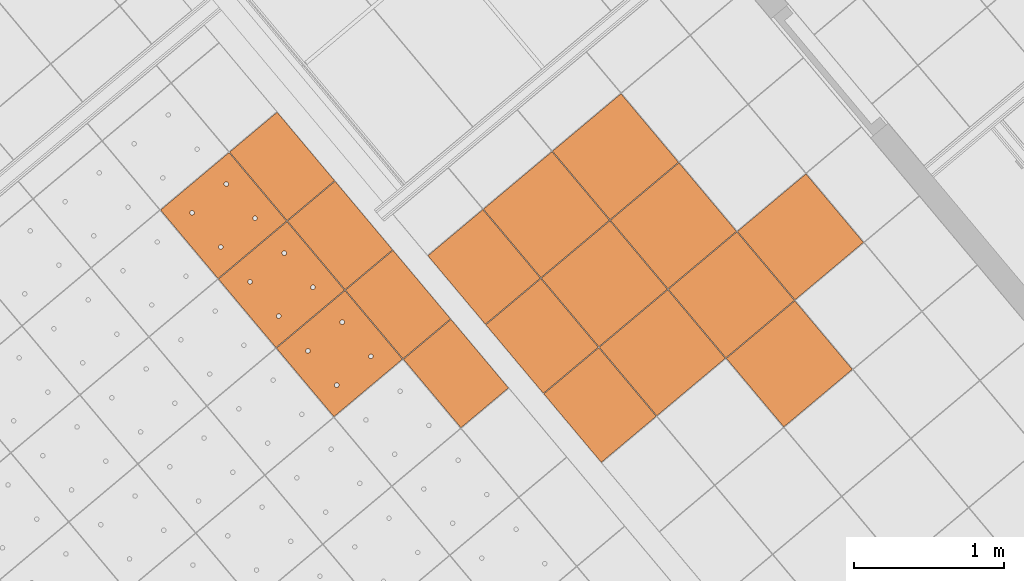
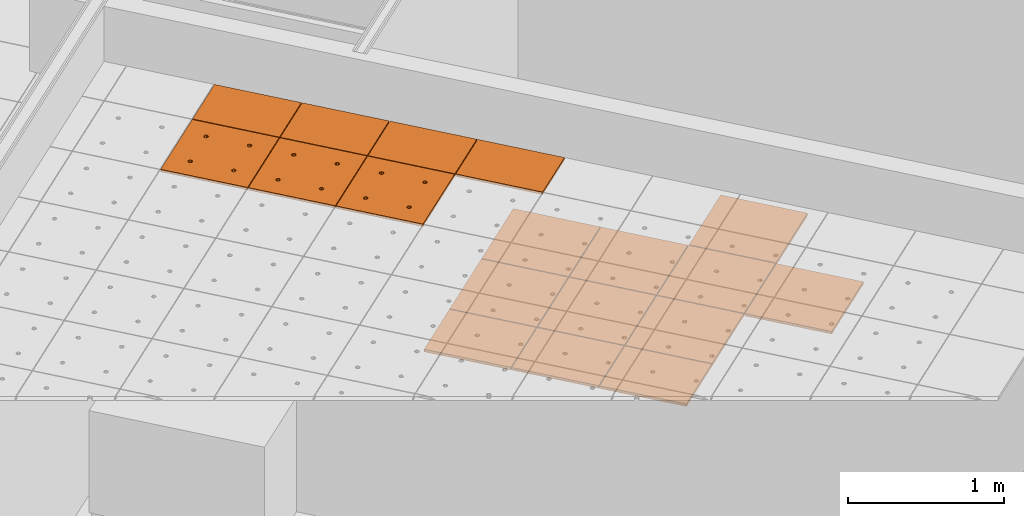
# One storey, part 193 of 338: 18 proxies, 2 elements without a shape of their own.
"""IFC2X3 building model written with IfcOpenShell, lengths in millimetres."""

from ifc_helpers import new_model, entity, si_unit, converted_unit, derived_unit, money_unit, direction, frame, origin_with_axes, place, context, subcontext, project, spatial, faceted_brep, source, transform, mapped, material, type_object, type_shapes, element, aggregate, save


model = new_model("IFC2X3")

# Units and contexts
model_context = context("Model", 3, precision=0.01, world=origin_with_axes(), true_north=direction((0.0, 1.0)))
plan_context = context("Plan", 3, precision=0.01, world=origin_with_axes(), true_north=direction((0.0, 1.0)))
body_context = subcontext(model_context, "Body", "Model", "MODEL_VIEW")
ifc_project = project(units=[si_unit("LENGTHUNIT", "METRE", prefix="MILLI"), si_unit("AREAUNIT", "SQUARE_METRE"), si_unit("VOLUMEUNIT", "CUBIC_METRE"), converted_unit("PLANEANGLEUNIT", "DEGREE", entity("IfcPlaneAngleMeasure", 0.0174532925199), si_unit("PLANEANGLEUNIT", "RADIAN"), dimensions=[0, 0, 0, 0, 0, 0, 0]), money_unit("EUR"), converted_unit("TIMEUNIT", "Year", entity("IfcTimeMeasure", 31556926.0), si_unit("TIMEUNIT", "SECOND"), dimensions=[0, 0, 1, 0, 0, 0, 0]), si_unit("MASSUNIT", "GRAM", prefix="KILO"), si_unit("THERMODYNAMICTEMPERATUREUNIT", "DEGREE_CELSIUS"), si_unit("LUMINOUSINTENSITYUNIT", "LUMEN"), si_unit("ENERGYUNIT", "JOULE", prefix="MEGA"), derived_unit("THERMALCONDUCTANCEUNIT", [(si_unit("POWERUNIT", "WATT"), 1), (si_unit("LENGTHUNIT", "METRE"), -1), (si_unit("THERMODYNAMICTEMPERATUREUNIT", "KELVIN"), -1)]), derived_unit("SPECIFICHEATCAPACITYUNIT", [(si_unit("ENERGYUNIT", "JOULE"), 1), (si_unit("MASSUNIT", "GRAM", prefix="KILO"), -1), (si_unit("THERMODYNAMICTEMPERATUREUNIT", "KELVIN"), -1)]), derived_unit("MASSDENSITYUNIT", [(si_unit("MASSUNIT", "GRAM", prefix="KILO"), 1), (si_unit("VOLUMEUNIT", "CUBIC_METRE"), -1)])], contexts=[model_context, plan_context])

# Site, building, storey
site_placement = place(None, origin_with_axes())
site = spatial("IfcSite", under=ifc_project, at=site_placement, Name="Fortuinstraat Woensdrecht", CompositionType="ELEMENT")
building_placement = place(site_placement, origin_with_axes())
building = spatial("IfcBuilding", under=site, at=building_placement, Name="IKC Fortuna", CompositionType="ELEMENT")
storey_placement = place(building_placement, origin_with_axes())
storey = spatial("IfcBuildingStorey", under=building, at=storey_placement, Name="00 begane grond", CompositionType="ELEMENT", Elevation=0.0)

# Covering, proxies
covering_type = type_object("IfcCoveringType", Name="Curtain Wall Type", PredefinedType="CEILING")
covering_1_placement = place(storey_placement, frame((23826.4460301, -4357.43121765, 2810.0), z_axis=(0.0, 0.0, 1.0), x_axis=(1.0, 0.0, 0.0)))
covering_1 = element("IfcCovering", 1, at=covering_1_placement, inside=storey, type_object=covering_type, Name="45_Plafondafwerking_P02", PredefinedType="CEILING")
ifc_material = material(Name="Gipsplaat")
building_element_proxy_type_1 = type_object("IfcBuildingElementProxyType", Name="Distinct Panel 600 x 600 x 20", PredefinedType="NOTDEFINED")
shared_shape_1 = source(origin_with_axes(), body_context, "Body", "Brep", [
    faceted_brep([(2.49999999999, 2.5, -10.0), (597.5, 2.49999999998, -10.0), (597.5, 2.49999999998, 10.0), (2.49999999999, 2.5, 10.0), (2.50000000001, 597.5, -10.0), (597.5, 597.5, -10.0), (597.5, 597.5, 10.0), (2.50000000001, 597.5, 10.0)], [[[0, 1, 2, 3]], [[0, 4, 5, 1]], [[1, 5, 6, 2]], [[3, 2, 6, 7]], [[4, 0, 3, 7]], [[5, 4, 7, 6]]]),
])
proxy_1_placement = place(covering_1_placement, frame((-356.752072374, 1267.1383942, 0.0), z_axis=(0.0, 0.0, 1.0), x_axis=(1.0, 0.0, 0.0)))
proxy_1 = element("IfcBuildingElementProxy", 2, at=proxy_1_placement, type_object=building_element_proxy_type_1, material=ifc_material, Name="__Panel-D", context=body_context, shape_type="MappedRepresentation", body=[
    mapped(shared_shape_1, transform((36.9769427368, 422.649625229, 0.0), x_axis=(-0.766044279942, -0.642787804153, 0.0), y_axis=(0.642787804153, -0.766044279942, 0.0), z_axis=(0.0, 0.0, 1.0))),
])
proxy_2_placement = place(covering_1_placement, frame((488.547178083, 1193.18450873, 0.0), z_axis=(0.0, 0.0, 1.0), x_axis=(1.0, 0.0, 0.0)))
proxy_2 = element("IfcBuildingElementProxy", 3, at=proxy_2_placement, type_object=building_element_proxy_type_1, material=ifc_material, Name="__Panel-D", context=body_context, shape_type="MappedRepresentation", body=[
    mapped(shared_shape_1, transform((36.9769427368, 422.649625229, 0.0), x_axis=(-0.766044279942, -0.642787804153, 0.0), y_axis=(0.642787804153, -0.766044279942, 0.0), z_axis=(0.0, 0.0, 1.0))),
])
proxy_3_placement = place(covering_1_placement, frame((28.9206101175, 807.511826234, 0.0), z_axis=(0.0, 0.0, 1.0), x_axis=(1.0, 0.0, 0.0)))
proxy_3 = element("IfcBuildingElementProxy", 4, at=proxy_3_placement, type_object=building_element_proxy_type_1, material=ifc_material, Name="__Panel-D", context=body_context, shape_type="MappedRepresentation", body=[
    mapped(shared_shape_1, transform((36.9769427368, 422.649625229, 0.0), x_axis=(-0.766044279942, -0.642787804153, 0.0), y_axis=(0.642787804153, -0.766044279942, 0.0), z_axis=(0.0, 0.0, 1.0))),
])
proxy_4_placement = place(covering_1_placement, frame((874.219860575, 733.55794076, 0.0), z_axis=(0.0, 0.0, 1.0), x_axis=(1.0, 0.0, 0.0)))
proxy_4 = element("IfcBuildingElementProxy", 5, at=proxy_4_placement, type_object=building_element_proxy_type_1, material=ifc_material, Name="__Panel-D", context=body_context, shape_type="MappedRepresentation", body=[
    mapped(shared_shape_1, transform((36.9769427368, 422.649625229, 0.0), x_axis=(-0.766044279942, -0.642787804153, 0.0), y_axis=(0.642787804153, -0.766044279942, 0.0), z_axis=(0.0, 0.0, 1.0))),
])
proxy_5_placement = place(covering_1_placement, frame((102.874495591, 1652.81107669, 0.0), z_axis=(0.0, 0.0, 1.0), x_axis=(1.0, 0.0, 0.0)))
proxy_5 = element("IfcBuildingElementProxy", 6, at=proxy_5_placement, type_object=building_element_proxy_type_1, material=ifc_material, Name="__Panel-D", context=body_context, shape_type="MappedRepresentation", body=[
    mapped(shared_shape_1, transform((36.9769427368, 422.649625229, 0.0), x_axis=(-0.766044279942, -0.642787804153, 0.0), y_axis=(0.642787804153, -0.766044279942, 0.0), z_axis=(0.0, 0.0, 1.0))),
])
proxy_6_placement = place(covering_1_placement, frame((1259.89254307, 273.931372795, 0.0), z_axis=(0.0, 0.0, 1.0), x_axis=(1.0, 0.0, 0.0)))
proxy_6 = element("IfcBuildingElementProxy", 7, at=proxy_6_placement, type_object=building_element_proxy_type_1, material=ifc_material, Name="__Panel-D", context=body_context, shape_type="MappedRepresentation", body=[
    mapped(shared_shape_1, transform((36.9769427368, 422.649625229, 0.0), x_axis=(-0.766044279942, -0.642787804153, 0.0), y_axis=(0.642787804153, -0.766044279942, 0.0), z_axis=(0.0, 0.0, 1.0))),
])
shared_shape_2 = source(origin_with_axes(), body_context, "Body", "Brep", [
    faceted_brep([(2.5000069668, 2.4999963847, -10.0), (597.499995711, 2.50000275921, -10.0), (597.499995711, 2.50000275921, 10.0), (2.5000069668, 2.4999963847, 10.0), (2.50000214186, 597.499967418, -10.0), (597.499990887, 597.499973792, -10.0), (597.499990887, 597.499973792, 10.0), (2.50000214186, 597.499967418, 10.0)], [[[0, 1, 2, 3]], [[0, 4, 5, 1]], [[1, 5, 6, 2]], [[3, 2, 6, 7]], [[4, 0, 3, 7]], [[5, 4, 7, 6]]]),
])
type_shapes(building_element_proxy_type_1, [shared_shape_1, shared_shape_2])
proxy_7_placement = place(covering_1_placement, frame((1333.84642854, 1119.23062325, 0.0), z_axis=(0.0, 0.0, 1.0), x_axis=(1.0, 0.0, 0.0)))
proxy_7 = element("IfcBuildingElementProxy", 8, at=proxy_7_placement, type_object=building_element_proxy_type_1, material=ifc_material, Name="__Panel-D", context=body_context, shape_type="MappedRepresentation", body=[
    mapped(shared_shape_2, transform((36.9769427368, 422.649625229, 0.0), x_axis=(-0.766044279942, -0.642787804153, 0.0), y_axis=(0.642787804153, -0.766044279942, 0.0), z_axis=(0.0, 0.0, 1.0))),
])
proxy_8_placement = place(covering_1_placement, frame((414.593292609, 347.885258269, 0.0), z_axis=(0.0, 0.0, 1.0), x_axis=(1.0, 0.0, 0.0)))
proxy_8 = element("IfcBuildingElementProxy", 9, at=proxy_8_placement, type_object=building_element_proxy_type_1, material=ifc_material, Name="__Panel-D", context=body_context, shape_type="MappedRepresentation", body=[
    mapped(shared_shape_2, transform((36.9769427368, 422.649625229, 0.0), x_axis=(-0.766044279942, -0.642787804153, 0.0), y_axis=(0.642787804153, -0.766044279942, 0.0), z_axis=(0.0, 0.0, 1.0))),
])

covering_2_placement = place(storey_placement, frame((19785.7448517, -11392.5753808, 4660.0), z_axis=(0.0, 0.0, 1.0), x_axis=(1.0, 0.0, 0.0)))
covering_2 = element("IfcCovering", 10, at=covering_2_placement, inside=storey, type_object=covering_type, Name="45_Plafondafwerking_P01", PredefinedType="CEILING")
building_element_proxy_type_2 = type_object("IfcBuildingElementProxyType", Name="Main Panel 600 x 600 x 20", PredefinedType="NOTDEFINED")
shared_shape_3 = source(origin_with_axes(), body_context, "Body", "Brep", [
    faceted_brep([(2.49999999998, 2.49999999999, -10.0), (300.0, 2.49999999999, -10.0), (300.0, 2.49999999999, 10.0), (2.49999999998, 2.49999999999, 10.0), (2.49999999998, 300.0, -10.0), (2.49999999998, 597.5, -10.0), (300.0, 597.5, -10.0), (597.5, 597.5, -10.0), (597.5, 300.0, -10.0), (597.5, 2.49999999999, -10.0), (166.25, 450.06232995, -10.0), (165.79423259, 452.64711538, -10.0), (164.896546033, 455.11348892, -10.0), (163.58421608, 457.38651108, -10.0), (161.897117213, 459.39711721, -10.0), (159.886511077, 461.08421608, -10.0), (157.613488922, 462.39654603, -10.0), (155.147115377, 463.29423259, -10.0), (152.562329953, 463.75, -10.0), (149.937670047, 463.75, -10.0), (147.352884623, 463.29423259, -10.0), (144.886511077, 462.39654603, -10.0), (142.613488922, 461.08421608, -10.0), (140.602882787, 459.39711721, -10.0), (138.91578392, 457.38651108, -10.0), (137.603453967, 455.11348892, -10.0), (136.705767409, 452.64711538, -10.0), (136.25, 450.06232995, -10.0), (136.25, 448.75, -10.0), (136.25, 447.43767005, -10.0), (136.705767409, 444.85288462, -10.0), (137.603453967, 442.38651108, -10.0), (138.91578392, 440.11348892, -10.0), (140.602882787, 438.10288279, -10.0), (142.613488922, 436.41578392, -10.0), (144.886511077, 435.10345397, -10.0), (147.352884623, 434.20576741, -10.0), (149.937670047, 433.75, -10.0), (152.562329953, 433.75, -10.0), (155.147115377, 434.20576741, -10.0), (157.613488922, 435.10345397, -10.0), (159.886511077, 436.41578392, -10.0), (161.897117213, 438.10288279, -10.0), (163.58421608, 440.11348892, -10.0), (164.896546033, 442.38651108, -10.0), (165.79423259, 444.85288462, -10.0), (166.25, 447.43767005, -10.0), (463.75, 450.06232995, -10.0), (463.29423259, 452.64711538, -10.0), (462.396546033, 455.11348892, -10.0), (461.08421608, 457.38651108, -10.0), (459.397117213, 459.39711721, -10.0), (457.386511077, 461.08421608, -10.0), (455.113488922, 462.39654603, -10.0), (452.647115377, 463.29423259, -10.0), (450.062329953, 463.75, -10.0), (447.437670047, 463.75, -10.0), (444.852884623, 463.29423259, -10.0), (442.386511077, 462.39654603, -10.0), (440.113488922, 461.08421608, -10.0), (438.102882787, 459.39711721, -10.0), (436.41578392, 457.38651108, -10.0), (435.103453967, 455.11348892, -10.0), (434.205767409, 452.64711538, -10.0), (433.75, 450.06232995, -10.0), (433.75, 448.75, -10.0), (433.75, 447.43767005, -10.0), (434.205767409, 444.85288462, -10.0), (435.103453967, 442.38651108, -10.0), (436.41578392, 440.11348892, -10.0), (438.102882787, 438.10288279, -10.0), (440.113488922, 436.41578392, -10.0), (442.386511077, 435.10345397, -10.0), (444.852884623, 434.20576741, -10.0), (447.437670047, 433.75, -10.0), (450.062329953, 433.75, -10.0), (452.647115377, 434.20576741, -10.0), (455.113488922, 435.10345397, -10.0), (457.386511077, 436.41578392, -10.0), (459.397117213, 438.10288279, -10.0), (461.08421608, 440.11348892, -10.0), (462.396546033, 442.38651108, -10.0), (463.29423259, 444.85288462, -10.0), (463.75, 447.43767005, -10.0), (463.75, 152.56232995, -10.0), (463.29423259, 155.14711538, -10.0), (462.396546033, 157.61348892, -10.0), (461.08421608, 159.88651108, -10.0), (459.397117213, 161.89711721, -10.0), (457.386511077, 163.58421608, -10.0), (455.113488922, 164.89654603, -10.0), (452.647115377, 165.79423259, -10.0), (450.062329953, 166.25, -10.0), (447.437670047, 166.25, -10.0), (444.852884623, 165.79423259, -10.0), (442.386511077, 164.89654603, -10.0), (440.113488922, 163.58421608, -10.0), (438.102882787, 161.89711721, -10.0), (436.41578392, 159.88651108, -10.0), (435.103453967, 157.61348892, -10.0), (434.205767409, 155.14711538, -10.0), (433.75, 152.56232995, -10.0), (433.75, 151.25, -10.0), (433.75, 149.93767005, -10.0), (434.205767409, 147.35288462, -10.0), (435.103453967, 144.88651108, -10.0), (436.41578392, 142.61348892, -10.0), (438.102882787, 140.60288279, -10.0), (440.113488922, 138.91578392, -10.0), (442.386511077, 137.60345397, -10.0), (444.852884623, 136.70576741, -10.0), (447.437670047, 136.25, -10.0), (450.062329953, 136.25, -10.0), (452.647115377, 136.70576741, -10.0), (455.113488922, 137.60345397, -10.0), (457.386511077, 138.91578392, -10.0), (459.397117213, 140.60288279, -10.0), (461.08421608, 142.61348892, -10.0), (462.396546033, 144.88651108, -10.0), (463.29423259, 147.35288462, -10.0), (463.75, 149.93767005, -10.0), (166.25, 152.56232995, -10.0), (165.79423259, 155.14711538, -10.0), (164.896546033, 157.61348892, -10.0), (163.58421608, 159.88651108, -10.0), (161.897117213, 161.89711721, -10.0), (159.886511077, 163.58421608, -10.0), (157.613488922, 164.89654603, -10.0), (155.147115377, 165.79423259, -10.0), (152.562329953, 166.25, -10.0), (149.937670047, 166.25, -10.0), (147.352884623, 165.79423259, -10.0), (144.886511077, 164.89654603, -10.0), (142.613488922, 163.58421608, -10.0), (140.602882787, 161.89711721, -10.0), (138.91578392, 159.88651108, -10.0), (137.603453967, 157.61348892, -10.0), (136.705767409, 155.14711538, -10.0), (136.25, 152.56232995, -10.0), (136.25, 151.25, -10.0), (136.25, 149.93767005, -10.0), (136.705767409, 147.35288462, -10.0), (137.603453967, 144.88651108, -10.0), (138.91578392, 142.61348892, -10.0), (140.602882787, 140.60288279, -10.0), (142.613488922, 138.91578392, -10.0), (144.886511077, 137.60345397, -10.0), (147.352884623, 136.70576741, -10.0), (149.937670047, 136.25, -10.0), (152.562329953, 136.25, -10.0), (155.147115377, 136.70576741, -10.0), (157.613488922, 137.60345397, -10.0), (159.886511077, 138.91578392, -10.0), (161.897117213, 140.60288279, -10.0), (163.58421608, 142.61348892, -10.0), (164.896546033, 144.88651108, -10.0), (165.79423259, 147.35288462, -10.0), (166.25, 149.93767005, -10.0), (597.5, 2.49999999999, 10.0), (597.5, 300.0, 10.0), (597.5, 597.5, 10.0), (300.0, 597.5, 10.0), (2.49999999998, 597.5, 10.0), (2.49999999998, 300.0, 10.0), (166.25, 450.06232995, 10.0), (166.25, 447.43767005, 10.0), (165.79423259, 444.85288462, 10.0), (164.896546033, 442.38651108, 10.0), (163.58421608, 440.11348892, 10.0), (161.897117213, 438.10288279, 10.0), (159.886511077, 436.41578392, 10.0), (157.613488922, 435.10345397, 10.0), (155.147115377, 434.20576741, 10.0), (152.562329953, 433.75, 10.0), (149.937670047, 433.75, 10.0), (147.352884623, 434.20576741, 10.0), (144.886511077, 435.10345397, 10.0), (142.613488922, 436.41578392, 10.0), (140.602882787, 438.10288279, 10.0), (138.91578392, 440.11348892, 10.0), (137.603453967, 442.38651108, 10.0), (136.705767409, 444.85288462, 10.0), (136.25, 447.43767005, 10.0), (136.25, 448.75, 10.0), (136.25, 450.06232995, 10.0), (136.705767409, 452.64711538, 10.0), (137.603453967, 455.11348892, 10.0), (138.91578392, 457.38651108, 10.0), (140.602882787, 459.39711721, 10.0), (142.613488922, 461.08421608, 10.0), (144.886511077, 462.39654603, 10.0), (147.352884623, 463.29423259, 10.0), (149.937670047, 463.75, 10.0), (152.562329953, 463.75, 10.0), (155.147115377, 463.29423259, 10.0), (157.613488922, 462.39654603, 10.0), (159.886511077, 461.08421608, 10.0), (161.897117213, 459.39711721, 10.0), (163.58421608, 457.38651108, 10.0), (164.896546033, 455.11348892, 10.0), (165.79423259, 452.64711538, 10.0), (463.75, 450.06232995, 10.0), (463.75, 447.43767005, 10.0), (463.29423259, 444.85288462, 10.0), (462.396546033, 442.38651108, 10.0), (461.08421608, 440.11348892, 10.0), (459.397117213, 438.10288279, 10.0), (457.386511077, 436.41578392, 10.0), (455.113488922, 435.10345397, 10.0), (452.647115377, 434.20576741, 10.0), (450.062329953, 433.75, 10.0), (447.437670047, 433.75, 10.0), (444.852884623, 434.20576741, 10.0), (442.386511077, 435.10345397, 10.0), (440.113488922, 436.41578392, 10.0), (438.102882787, 438.10288279, 10.0), (436.41578392, 440.11348892, 10.0), (435.103453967, 442.38651108, 10.0), (434.205767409, 444.85288462, 10.0), (433.75, 447.43767005, 10.0), (433.75, 448.75, 10.0), (433.75, 450.06232995, 10.0), (434.205767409, 452.64711538, 10.0), (435.103453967, 455.11348892, 10.0), (436.41578392, 457.38651108, 10.0), (438.102882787, 459.39711721, 10.0), (440.113488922, 461.08421608, 10.0), (442.386511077, 462.39654603, 10.0), (444.852884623, 463.29423259, 10.0), (447.437670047, 463.75, 10.0), (450.062329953, 463.75, 10.0), (452.647115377, 463.29423259, 10.0), (455.113488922, 462.39654603, 10.0), (457.386511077, 461.08421608, 10.0), (459.397117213, 459.39711721, 10.0), (461.08421608, 457.38651108, 10.0), (462.396546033, 455.11348892, 10.0), (463.29423259, 452.64711538, 10.0), (463.75, 152.56232995, 10.0), (463.75, 149.93767005, 10.0), (463.29423259, 147.35288462, 10.0), (462.396546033, 144.88651108, 10.0), (461.08421608, 142.61348892, 10.0), (459.397117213, 140.60288279, 10.0), (457.386511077, 138.91578392, 10.0), (455.113488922, 137.60345397, 10.0), (452.647115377, 136.70576741, 10.0), (450.062329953, 136.25, 10.0), (447.437670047, 136.25, 10.0), (444.852884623, 136.70576741, 10.0), (442.386511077, 137.60345397, 10.0), (440.113488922, 138.91578392, 10.0), (438.102882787, 140.60288279, 10.0), (436.41578392, 142.61348892, 10.0), (435.103453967, 144.88651108, 10.0), (434.205767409, 147.35288462, 10.0), (433.75, 149.93767005, 10.0), (433.75, 151.25, 10.0), (433.75, 152.56232995, 10.0), (434.205767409, 155.14711538, 10.0), (435.103453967, 157.61348892, 10.0), (436.41578392, 159.88651108, 10.0), (438.102882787, 161.89711721, 10.0), (440.113488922, 163.58421608, 10.0), (442.386511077, 164.89654603, 10.0), (444.852884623, 165.79423259, 10.0), (447.437670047, 166.25, 10.0), (450.062329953, 166.25, 10.0), (452.647115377, 165.79423259, 10.0), (455.113488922, 164.89654603, 10.0), (457.386511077, 163.58421608, 10.0), (459.397117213, 161.89711721, 10.0), (461.08421608, 159.88651108, 10.0), (462.396546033, 157.61348892, 10.0), (463.29423259, 155.14711538, 10.0), (166.25, 152.56232995, 10.0), (166.25, 149.93767005, 10.0), (165.79423259, 147.35288462, 10.0), (164.896546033, 144.88651108, 10.0), (163.58421608, 142.61348892, 10.0), (161.897117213, 140.60288279, 10.0), (159.886511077, 138.91578392, 10.0), (157.613488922, 137.60345397, 10.0), (155.147115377, 136.70576741, 10.0), (152.562329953, 136.25, 10.0), (149.937670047, 136.25, 10.0), (147.352884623, 136.70576741, 10.0), (144.886511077, 137.60345397, 10.0), (142.613488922, 138.91578392, 10.0), (140.602882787, 140.60288279, 10.0), (138.91578392, 142.61348892, 10.0), (137.603453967, 144.88651108, 10.0), (136.705767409, 147.35288462, 10.0), (136.25, 149.93767005, 10.0), (136.25, 151.25, 10.0), (136.25, 152.56232995, 10.0), (136.705767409, 155.14711538, 10.0), (137.603453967, 157.61348892, 10.0), (138.91578392, 159.88651108, 10.0), (140.602882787, 161.89711721, 10.0), (142.613488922, 163.58421608, 10.0), (144.886511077, 164.89654603, 10.0), (147.352884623, 165.79423259, 10.0), (149.937670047, 166.25, 10.0), (152.562329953, 166.25, 10.0), (155.147115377, 165.79423259, 10.0), (157.613488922, 164.89654603, 10.0), (159.886511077, 163.58421608, 10.0), (161.897117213, 161.89711721, 10.0), (163.58421608, 159.88651108, 10.0), (164.896546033, 157.61348892, 10.0), (165.79423259, 155.14711538, 10.0)], [[[0, 1, 2, 3]], [[0, 4, 5, 6, 7, 8, 9, 1], [10, 11, 12, 13, 14, 15, 16, 17, 18, 19, 20, 21, 22, 23, 24, 25, 26, 27, 28, 29, 30, 31, 32, 33, 34, 35, 36, 37, 38, 39, 40, 41, 42, 43, 44, 45, 46], [47, 48, 49, 50, 51, 52, 53, 54, 55, 56, 57, 58, 59, 60, 61, 62, 63, 64, 65, 66, 67, 68, 69, 70, 71, 72, 73, 74, 75, 76, 77, 78, 79, 80, 81, 82, 83], [84, 85, 86, 87, 88, 89, 90, 91, 92, 93, 94, 95, 96, 97, 98, 99, 100, 101, 102, 103, 104, 105, 106, 107, 108, 109, 110, 111, 112, 113, 114, 115, 116, 117, 118, 119, 120], [121, 122, 123, 124, 125, 126, 127, 128, 129, 130, 131, 132, 133, 134, 135, 136, 137, 138, 139, 140, 141, 142, 143, 144, 145, 146, 147, 148, 149, 150, 151, 152, 153, 154, 155, 156, 157]], [[1, 9, 158, 2]], [[3, 2, 158, 159, 160, 161, 162, 163], [164, 165, 166, 167, 168, 169, 170, 171, 172, 173, 174, 175, 176, 177, 178, 179, 180, 181, 182, 183, 184, 185, 186, 187, 188, 189, 190, 191, 192, 193, 194, 195, 196, 197, 198, 199, 200], [201, 202, 203, 204, 205, 206, 207, 208, 209, 210, 211, 212, 213, 214, 215, 216, 217, 218, 219, 220, 221, 222, 223, 224, 225, 226, 227, 228, 229, 230, 231, 232, 233, 234, 235, 236, 237], [238, 239, 240, 241, 242, 243, 244, 245, 246, 247, 248, 249, 250, 251, 252, 253, 254, 255, 256, 257, 258, 259, 260, 261, 262, 263, 264, 265, 266, 267, 268, 269, 270, 271, 272, 273, 274], [275, 276, 277, 278, 279, 280, 281, 282, 283, 284, 285, 286, 287, 288, 289, 290, 291, 292, 293, 294, 295, 296, 297, 298, 299, 300, 301, 302, 303, 304, 305, 306, 307, 308, 309, 310, 311]], [[4, 0, 3, 163]], [[5, 4, 163, 162]], [[6, 5, 162, 161]], [[7, 6, 161, 160]], [[8, 7, 160, 159]], [[9, 8, 159, 158]], [[11, 10, 164, 200]], [[12, 11, 200, 199]], [[13, 12, 199, 198]], [[14, 13, 198, 197]], [[15, 14, 197, 196]], [[16, 15, 196, 195]], [[17, 16, 195, 194]], [[18, 17, 194, 193]], [[19, 18, 193, 192]], [[20, 19, 192, 191]], [[21, 20, 191, 190]], [[22, 21, 190, 189]], [[23, 22, 189, 188]], [[24, 23, 188, 187]], [[25, 24, 187, 186]], [[26, 25, 186, 185]], [[27, 26, 185, 184]], [[28, 27, 184, 183]], [[29, 28, 183, 182]], [[30, 29, 182, 181]], [[31, 30, 181, 180]], [[32, 31, 180, 179]], [[33, 32, 179, 178]], [[34, 33, 178, 177]], [[35, 34, 177, 176]], [[36, 35, 176, 175]], [[37, 36, 175, 174]], [[38, 37, 174, 173]], [[39, 38, 173, 172]], [[40, 39, 172, 171]], [[41, 40, 171, 170]], [[42, 41, 170, 169]], [[43, 42, 169, 168]], [[44, 43, 168, 167]], [[45, 44, 167, 166]], [[46, 45, 166, 165]], [[10, 46, 165, 164]], [[48, 47, 201, 237]], [[49, 48, 237, 236]], [[50, 49, 236, 235]], [[51, 50, 235, 234]], [[52, 51, 234, 233]], [[53, 52, 233, 232]], [[54, 53, 232, 231]], [[55, 54, 231, 230]], [[56, 55, 230, 229]], [[57, 56, 229, 228]], [[58, 57, 228, 227]], [[59, 58, 227, 226]], [[60, 59, 226, 225]], [[61, 60, 225, 224]], [[62, 61, 224, 223]], [[63, 62, 223, 222]], [[64, 63, 222, 221]], [[65, 64, 221, 220]], [[66, 65, 220, 219]], [[67, 66, 219, 218]], [[68, 67, 218, 217]], [[69, 68, 217, 216]], [[70, 69, 216, 215]], [[71, 70, 215, 214]], [[72, 71, 214, 213]], [[73, 72, 213, 212]], [[74, 73, 212, 211]], [[75, 74, 211, 210]], [[76, 75, 210, 209]], [[77, 76, 209, 208]], [[78, 77, 208, 207]], [[79, 78, 207, 206]], [[80, 79, 206, 205]], [[81, 80, 205, 204]], [[82, 81, 204, 203]], [[83, 82, 203, 202]], [[47, 83, 202, 201]], [[85, 84, 238, 274]], [[86, 85, 274, 273]], [[87, 86, 273, 272]], [[88, 87, 272, 271]], [[89, 88, 271, 270]], [[90, 89, 270, 269]], [[91, 90, 269, 268]], [[92, 91, 268, 267]], [[93, 92, 267, 266]], [[94, 93, 266, 265]], [[95, 94, 265, 264]], [[96, 95, 264, 263]], [[97, 96, 263, 262]], [[98, 97, 262, 261]], [[99, 98, 261, 260]], [[100, 99, 260, 259]], [[101, 100, 259, 258]], [[102, 101, 258, 257]], [[103, 102, 257, 256]], [[104, 103, 256, 255]], [[105, 104, 255, 254]], [[106, 105, 254, 253]], [[107, 106, 253, 252]], [[108, 107, 252, 251]], [[109, 108, 251, 250]], [[110, 109, 250, 249]], [[111, 110, 249, 248]], [[112, 111, 248, 247]], [[113, 112, 247, 246]], [[114, 113, 246, 245]], [[115, 114, 245, 244]], [[116, 115, 244, 243]], [[117, 116, 243, 242]], [[118, 117, 242, 241]], [[119, 118, 241, 240]], [[120, 119, 240, 239]], [[84, 120, 239, 238]], [[122, 121, 275, 311]], [[123, 122, 311, 310]], [[124, 123, 310, 309]], [[125, 124, 309, 308]], [[126, 125, 308, 307]], [[127, 126, 307, 306]], [[128, 127, 306, 305]], [[129, 128, 305, 304]], [[130, 129, 304, 303]], [[131, 130, 303, 302]], [[132, 131, 302, 301]], [[133, 132, 301, 300]], [[134, 133, 300, 299]], [[135, 134, 299, 298]], [[136, 135, 298, 297]], [[137, 136, 297, 296]], [[138, 137, 296, 295]], [[139, 138, 295, 294]], [[140, 139, 294, 293]], [[141, 140, 293, 292]], [[142, 141, 292, 291]], [[143, 142, 291, 290]], [[144, 143, 290, 289]], [[145, 144, 289, 288]], [[146, 145, 288, 287]], [[147, 146, 287, 286]], [[148, 147, 286, 285]], [[149, 148, 285, 284]], [[150, 149, 284, 283]], [[151, 150, 283, 282]], [[152, 151, 282, 281]], [[153, 152, 281, 280]], [[154, 153, 280, 279]], [[155, 154, 279, 278]], [[156, 155, 278, 277]], [[157, 156, 277, 276]], [[121, 157, 276, 275]]]),
])
type_shapes(building_element_proxy_type_2, [shared_shape_3])
proxy_9_placement = place(covering_2_placement, frame((1535.02230309, 8296.44613798, 0.0), z_axis=(0.0, 0.0, 1.0), x_axis=(1.0, 0.0, 0.0)))
proxy_9 = element("IfcBuildingElementProxy", 11, at=proxy_9_placement, type_object=building_element_proxy_type_2, material=ifc_material, Name="__600x640 Rockfon Krios", context=body_context, shape_type="MappedRepresentation", body=[
    mapped(shared_shape_3, transform((36.9769427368, 422.649625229, 0.0), x_axis=(-0.766044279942, -0.642787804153, 0.0), y_axis=(0.642787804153, -0.766044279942, 0.0), z_axis=(0.0, 0.0, 1.0))),
])
proxy_10_placement = place(covering_2_placement, frame((1920.69498558, 7836.81957001, 0.0), z_axis=(0.0, 0.0, 1.0), x_axis=(1.0, 0.0, 0.0)))
proxy_10 = element("IfcBuildingElementProxy", 12, at=proxy_10_placement, type_object=building_element_proxy_type_2, material=ifc_material, Name="__600x660 Rockfon Krios", context=body_context, shape_type="MappedRepresentation", body=[
    mapped(shared_shape_3, transform((36.9769427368, 422.649625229, 0.0), x_axis=(-0.766044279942, -0.642787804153, 0.0), y_axis=(0.642787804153, -0.766044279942, 0.0), z_axis=(0.0, 0.0, 1.0))),
])
proxy_11_placement = place(covering_2_placement, frame((2306.36766807, 7377.19300205, 0.0), z_axis=(0.0, 0.0, 1.0), x_axis=(1.0, 0.0, 0.0)))
proxy_11 = element("IfcBuildingElementProxy", 13, at=proxy_11_placement, type_object=building_element_proxy_type_2, material=ifc_material, Name="__600x691 Rockfon Krios", context=body_context, shape_type="MappedRepresentation", body=[
    mapped(shared_shape_3, transform((36.9769427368, 422.649625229, 0.0), x_axis=(-0.766044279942, -0.642787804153, 0.0), y_axis=(0.642787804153, -0.766044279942, 0.0), z_axis=(0.0, 0.0, 1.0))),
])
building_element_proxy_type_3 = type_object("IfcBuildingElementProxyType", Name="417 x 600 x 20", PredefinedType="NOTDEFINED")
shared_shape_4 = source(origin_with_axes(), body_context, "Body", "Brep", [
    faceted_brep([(185.001207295, 2.50000606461, -10.0), (597.500001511, 2.50000135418, -10.0), (597.500001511, 2.50000135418, 10.0), (185.001207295, 2.50000606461, 10.0), (185.001212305, 597.499995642, -10.0), (597.500013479, 597.499999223, -10.0), (597.500013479, 597.499999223, 10.0), (185.001212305, 597.499995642, 10.0)], [[[0, 1, 2, 3]], [[0, 4, 5, 1]], [[1, 5, 6, 2]], [[3, 2, 6, 7]], [[4, 0, 3, 7]], [[5, 4, 7, 6]]]),
])
type_shapes(building_element_proxy_type_3, [shared_shape_4])
proxy_12_placement = place(covering_2_placement, frame((2310.41954764, 8163.83747489, 0.0), z_axis=(0.0, 0.0, 1.0), x_axis=(1.0, 0.0, 0.0)))
proxy_12 = element("IfcBuildingElementProxy", 14, at=proxy_12_placement, type_object=building_element_proxy_type_3, material=ifc_material, Name="__600x623 Rockfon Krios", context=body_context, shape_type="MappedRepresentation", body=[
    mapped(shared_shape_4, transform((106.878948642, 481.304402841, 0.0), x_axis=(-0.766044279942, -0.642787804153, 0.0), y_axis=(0.642787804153, -0.766044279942, 0.0), z_axis=(0.0, 0.0, 1.0))),
])
proxy_13_placement = place(covering_2_placement, frame((1924.74686515, 8623.46404286, 0.0), z_axis=(0.0, 0.0, 1.0), x_axis=(1.0, 0.0, 0.0)))
proxy_13 = element("IfcBuildingElementProxy", 15, at=proxy_13_placement, type_object=building_element_proxy_type_3, material=ifc_material, Name="__600x645 Rockfon Krios", context=body_context, shape_type="MappedRepresentation", body=[
    mapped(shared_shape_4, transform((106.878948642, 481.304402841, 0.0), x_axis=(-0.766044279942, -0.642787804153, 0.0), y_axis=(0.642787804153, -0.766044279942, 0.0), z_axis=(0.0, 0.0, 1.0))),
])
proxy_14_placement = place(covering_2_placement, frame((2696.09223013, 7704.21090693, 0.0), z_axis=(0.0, 0.0, 1.0), x_axis=(1.0, 0.0, 0.0)))
proxy_14 = element("IfcBuildingElementProxy", 16, at=proxy_14_placement, type_object=building_element_proxy_type_3, material=ifc_material, Name="__600x655 Rockfon Krios", context=body_context, shape_type="MappedRepresentation", body=[
    mapped(shared_shape_4, transform((106.878948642, 481.304402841, 0.0), x_axis=(-0.766044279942, -0.642787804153, 0.0), y_axis=(0.642787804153, -0.766044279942, 0.0), z_axis=(0.0, 0.0, 1.0))),
])
proxy_15_placement = place(covering_2_placement, frame((3081.76491262, 7244.58433896, 0.0), z_axis=(0.0, 0.0, 1.0), x_axis=(1.0, 0.0, 0.0)))
proxy_15 = element("IfcBuildingElementProxy", 17, at=proxy_15_placement, type_object=building_element_proxy_type_3, material=ifc_material, Name="__600x687 Rockfon Krios", context=body_context, shape_type="MappedRepresentation", body=[
    mapped(shared_shape_4, transform((106.878948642, 481.304402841, 0.0), x_axis=(-0.766044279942, -0.642787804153, 0.0), y_axis=(0.642787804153, -0.766044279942, 0.0), z_axis=(0.0, 0.0, 1.0))),
])
aggregate(covering_2, [proxy_12, proxy_9, proxy_13, proxy_14, proxy_10, proxy_15, proxy_11])

# Proxy
building_element_proxy_type_4 = type_object("IfcBuildingElementProxyType", Name="Distinct Panel 482 x 600 x 20", PredefinedType="NOTDEFINED")
shared_shape_5 = source(origin_with_axes(), body_context, "Body", "Brep", [
    faceted_brep([(2.49999759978, 2.5000078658, -10.0), (479.926448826, 2.49999401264, -10.0), (479.926448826, 2.49999401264, 10.0), (2.49999759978, 2.5000078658, 10.0), (2.49999349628, 597.499993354, -10.0), (479.926443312, 597.499995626, -10.0), (479.926443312, 597.499995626, 10.0), (2.49999349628, 597.499993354, 10.0)], [[[0, 1, 2, 3]], [[0, 4, 5, 1]], [[1, 5, 6, 2]], [[3, 2, 6, 7]], [[4, 0, 3, 7]], [[5, 4, 7, 6]]]),
])
proxy_16_placement = place(covering_1_placement, origin_with_axes())
proxy_16 = element("IfcBuildingElementProxy", 18, at=proxy_16_placement, type_object=building_element_proxy_type_4, material=ifc_material, Name="__Panel-D", context=body_context, shape_type="MappedRepresentation", body=[
    mapped(shared_shape_5, transform((-8.05633261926, 384.862201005, 0.0), x_axis=(-0.766044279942, -0.642787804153, 0.0), y_axis=(0.642787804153, -0.766044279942, 0.0), z_axis=(0.0, 0.0, 1.0))),
])

proxy_17_placement = place(covering_1_placement, frame((-771.345364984, 919.253135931, 0.0), z_axis=(0.0, 0.0, 1.0), x_axis=(1.0, 0.0, 0.0)))
proxy_17 = element("IfcBuildingElementProxy", 19, at=proxy_17_placement, type_object=building_element_proxy_type_4, material=ifc_material, Name="__Panel-D", context=body_context, shape_type="MappedRepresentation", body=[
    mapped(shared_shape_5, transform((-8.05633261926, 384.862201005, 0.0), x_axis=(-0.766044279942, -0.642787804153, 0.0), y_axis=(0.642787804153, -0.766044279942, 0.0), z_axis=(0.0, 0.0, 1.0))),
])

shared_shape_6 = source(origin_with_axes(), body_context, "Body", "Brep", [
    faceted_brep([(2.49998944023, 2.49999814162, -10.0), (479.926448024, 2.49999305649, -10.0), (479.926448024, 2.49999305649, 10.0), (2.49998944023, 2.49999814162, 10.0), (2.49999269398, 597.499992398, -10.0), (479.926442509, 597.49999467, -10.0), (479.926442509, 597.49999467, 10.0), (2.49999269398, 597.499992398, 10.0)], [[[0, 1, 2, 3]], [[0, 4, 5, 1]], [[1, 5, 6, 2]], [[3, 2, 6, 7]], [[4, 0, 3, 7]], [[5, 4, 7, 6]]]),
])
type_shapes(building_element_proxy_type_4, [shared_shape_5, shared_shape_6])
proxy_18_placement = place(covering_1_placement, frame((-385.672682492, 459.626567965, 0.0), z_axis=(0.0, 0.0, 1.0), x_axis=(1.0, 0.0, 0.0)))
proxy_18 = element("IfcBuildingElementProxy", 20, at=proxy_18_placement, type_object=building_element_proxy_type_4, material=ifc_material, Name="__Panel-D", context=body_context, shape_type="MappedRepresentation", body=[
    mapped(shared_shape_6, transform((-8.05633261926, 384.862201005, 0.0), x_axis=(-0.766044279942, -0.642787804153, 0.0), y_axis=(0.642787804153, -0.766044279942, 0.0), z_axis=(0.0, 0.0, 1.0))),
])

aggregate(covering_1, [proxy_16, proxy_1, proxy_2, proxy_17, proxy_3, proxy_18, proxy_4, proxy_5, proxy_7, proxy_8, proxy_6])

save(model, "model.ifc")
